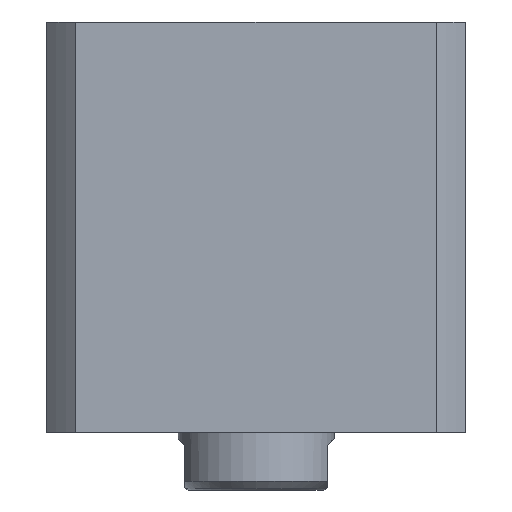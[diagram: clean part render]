
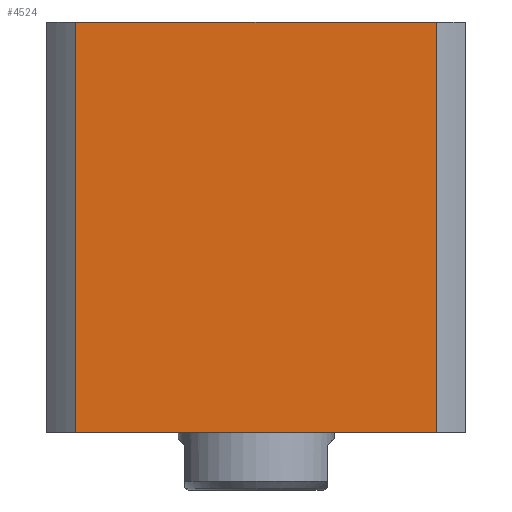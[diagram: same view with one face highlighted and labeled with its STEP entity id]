
A CAD part, front view. The second image highlights one B-rep face of the part: STEP entity #4524.
In plain terms, the highlighted planar face has unit normal (0, -1, 0) as drawn and (0, 1, 0) by its records, which use the part's own axes.
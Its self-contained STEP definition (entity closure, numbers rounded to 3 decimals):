
#253 = CARTESIAN_POINT ( 'NONE',  ( -47., 47., 0. ) ) ;
#281 = EDGE_CURVE ( 'NONE', #4477, #9717, #11982, .T. ) ;
#554 = DIRECTION ( 'NONE',  ( 0., 0., 1. ) ) ;
#970 = ORIENTED_EDGE ( 'NONE', *, *, #281, .F. ) ;
#1430 = PLANE ( 'NONE',  #3466 ) ;
#1577 = EDGE_CURVE ( 'NONE', #11376, #4477, #8784, .T. ) ;
#1839 = VECTOR ( 'NONE', #14953, 1000. ) ;
#2745 = ORIENTED_EDGE ( 'NONE', *, *, #1577, .F. ) ;
#2792 = CARTESIAN_POINT ( 'NONE',  ( -40.435, 47., 92. ) ) ;
#2852 = DIRECTION ( 'NONE',  ( 0., -1., 0. ) ) ;
#3466 = AXIS2_PLACEMENT_3D ( 'NONE', #11085, #2852, #12464 ) ;
#4477 = VERTEX_POINT ( 'NONE', #2792 ) ;
#4524 = ADVANCED_FACE ( 'NONE', ( #16806 ), #1430, .F. ) ;
#4702 = VECTOR ( 'NONE', #10688, 1000. ) ;
#5291 = CARTESIAN_POINT ( 'NONE',  ( 40.435, 47., 0. ) ) ;
#5391 = LINE ( 'NONE', #8997, #12227 ) ;
#5797 = ORIENTED_EDGE ( 'NONE', *, *, #8783, .F. ) ;
#5973 = EDGE_LOOP ( 'NONE', ( #5797, #16011, #970, #2745 ) ) ;
#7200 = DIRECTION ( 'NONE',  ( -1., 0., 0. ) ) ;
#8783 = EDGE_CURVE ( 'NONE', #15752, #11376, #5391, .T. ) ;
#8784 = LINE ( 'NONE', #17666, #1839 ) ;
#8799 = VECTOR ( 'NONE', #7200, 1000. ) ;
#8997 = CARTESIAN_POINT ( 'NONE',  ( 40.435, 47., -208. ) ) ;
#9717 = VERTEX_POINT ( 'NONE', #14972 ) ;
#10688 = DIRECTION ( 'NONE',  ( 0., 0., -1. ) ) ;
#11085 = CARTESIAN_POINT ( 'NONE',  ( -47., 47., 92. ) ) ;
#11376 = VERTEX_POINT ( 'NONE', #16406 ) ;
#11982 = LINE ( 'NONE', #13114, #4702 ) ;
#12227 = VECTOR ( 'NONE', #554, 1000. ) ;
#12464 = DIRECTION ( 'NONE',  ( 0., 0., -1. ) ) ;
#13114 = CARTESIAN_POINT ( 'NONE',  ( -40.435, 47., -208. ) ) ;
#13906 = EDGE_CURVE ( 'NONE', #15752, #9717, #15591, .T. ) ;
#14953 = DIRECTION ( 'NONE',  ( -1., 0., 0. ) ) ;
#14972 = CARTESIAN_POINT ( 'NONE',  ( -40.435, 47., 0. ) ) ;
#15591 = LINE ( 'NONE', #253, #8799 ) ;
#15752 = VERTEX_POINT ( 'NONE', #5291 ) ;
#16011 = ORIENTED_EDGE ( 'NONE', *, *, #13906, .T. ) ;
#16406 = CARTESIAN_POINT ( 'NONE',  ( 40.435, 47., 92. ) ) ;
#16806 = FACE_OUTER_BOUND ( 'NONE', #5973, .T. ) ;
#17666 = CARTESIAN_POINT ( 'NONE',  ( -47., 47., 92. ) ) ;
